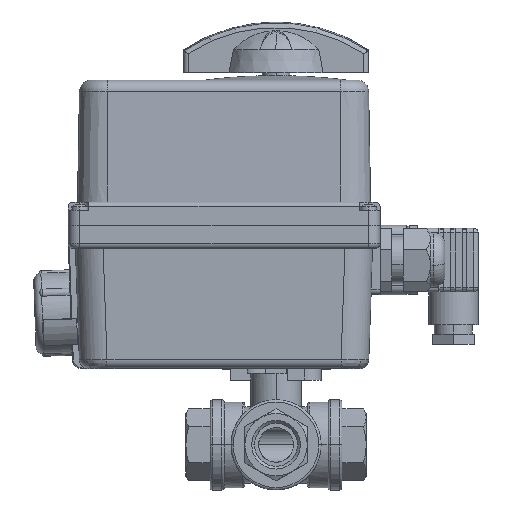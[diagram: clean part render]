
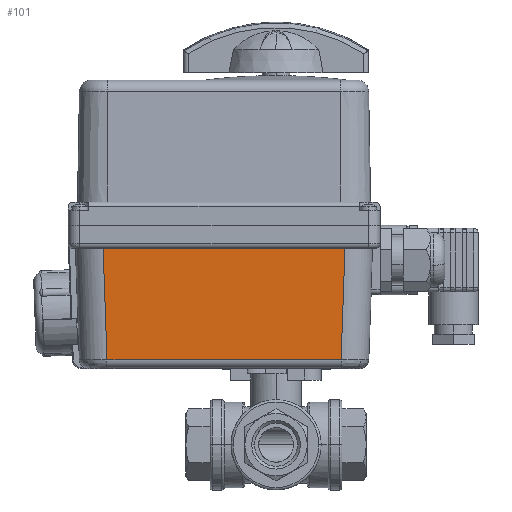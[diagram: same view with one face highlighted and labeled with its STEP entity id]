
A CAD part, top view. The second image highlights one B-rep face of the part: STEP entity #101.
In plain terms, the highlighted planar face has unit normal (0, -0.035, 0.999).
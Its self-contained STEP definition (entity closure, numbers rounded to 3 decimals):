
#50 = AXIS2_PLACEMENT_3D ( 'NONE', #14004, #14005, #14006 ) ;
#101 = ADVANCED_FACE ( 'NONE', ( #13994 ), #13979, .T. ) ;
#1295 = VERTEX_POINT ( 'NONE', #9244 ) ;
#1306 = VERTEX_POINT ( 'NONE', #9250 ) ;
#1315 = VERTEX_POINT ( 'NONE', #9255 ) ;
#6614 = EDGE_CURVE ( 'NONE', #1315, #1306, #23489, .T. ) ;
#9244 = CARTESIAN_POINT ( 'NONE',  ( -50.642, -58.14, 40.635 ) ) ;
#9250 = CARTESIAN_POINT ( 'NONE',  ( -52.323, -10., 42.316 ) ) ;
#9255 = CARTESIAN_POINT ( 'NONE',  ( 52.323, -10., 42.316 ) ) ;
#10968 = EDGE_CURVE ( 'NONE', #20050, #1315, #12174, .T. ) ;
#10969 = EDGE_CURVE ( 'NONE', #1295, #20050, #12192, .T. ) ;
#10970 = EDGE_CURVE ( 'NONE', #1306, #1295, #12199, .T. ) ;
#12174 = LINE ( 'NONE', #12186, #21533 ) ;
#12186 = CARTESIAN_POINT ( 'NONE',  ( 50.522, -61.582, 40.515 ) ) ;
#12190 = DIRECTION ( 'NONE',  ( 0.035, 0.999, 0.035 ) ) ;
#12192 = LINE ( 'NONE', #12195, #21552 ) ;
#12195 = CARTESIAN_POINT ( 'NONE',  ( 62.5, -58.14, 40.635 ) ) ;
#12197 = DIRECTION ( 'NONE',  ( 1., 0., 0. ) ) ;
#12199 = LINE ( 'NONE', #12201, #21553 ) ;
#12201 = CARTESIAN_POINT ( 'NONE',  ( -50.37, -65.937, 40.363 ) ) ;
#12202 = DIRECTION ( 'NONE',  ( 0.035, -0.999, -0.035 ) ) ;
#13979 = PLANE ( 'NONE',  #50 ) ;
#13994 = FACE_OUTER_BOUND ( 'NONE', #17804, .T. ) ;
#14004 = CARTESIAN_POINT ( 'NONE',  ( 62.5, -62., 40.5 ) ) ;
#14005 = DIRECTION ( 'NONE',  ( 0., -0.035, 0.999 ) ) ;
#14006 = DIRECTION ( 'NONE',  ( 0., -0.999, -0.035 ) ) ;
#15189 = ORIENTED_EDGE ( 'NONE', *, *, #6614, .T. ) ;
#15191 = ORIENTED_EDGE ( 'NONE', *, *, #10968, .T. ) ;
#15194 = ORIENTED_EDGE ( 'NONE', *, *, #10969, .T. ) ;
#15195 = ORIENTED_EDGE ( 'NONE', *, *, #10970, .T. ) ;
#17804 = EDGE_LOOP ( 'NONE', ( #15195, #15194, #15191, #15189 ) ) ;
#18366 = VECTOR ( 'NONE', #23491, 1000. ) ;
#20050 = VERTEX_POINT ( 'NONE', #28518 ) ;
#21533 = VECTOR ( 'NONE', #12190, 1000. ) ;
#21552 = VECTOR ( 'NONE', #12197, 1000. ) ;
#21553 = VECTOR ( 'NONE', #12202, 1000. ) ;
#23489 = LINE ( 'NONE', #23490, #18366 ) ;
#23490 = CARTESIAN_POINT ( 'NONE',  ( 62.5, -10., 42.316 ) ) ;
#23491 = DIRECTION ( 'NONE',  ( -1., 0., 0. ) ) ;
#28518 = CARTESIAN_POINT ( 'NONE',  ( 50.642, -58.14, 40.635 ) ) ;
